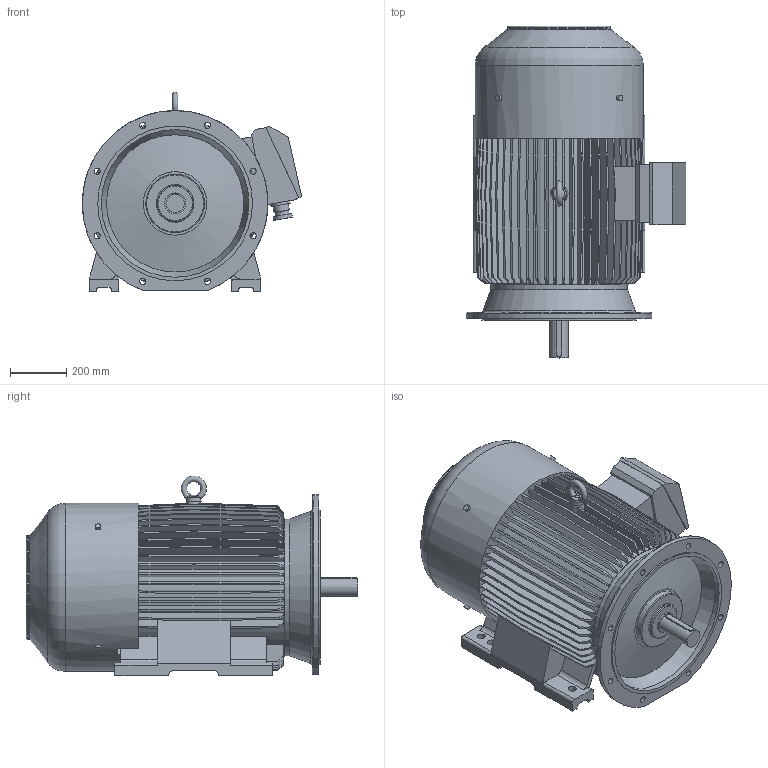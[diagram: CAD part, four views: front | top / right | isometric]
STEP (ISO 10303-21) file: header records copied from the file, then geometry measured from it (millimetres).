
FILE_DESCRIPTION(/* description */ ('Unknown'),/* implementation_level */ '2;1');
FILE_NAME(/* name */ '2SLg 315 S_M2',/* time_stamp */ '2016-09-28T12:40:11+02:00',/* author */ ('Unknown'),/* organization */ ('Unknown'),/* preprocessor_version */ 'ST-DEVELOPER v16',/* originating_system */ 'DEX',/* authorisation */ $);
FILE_SCHEMA (('AUTOMOTIVE_DESIGN {1 0 10303 214 3 1 1}'));
Length unit declared in the file: millimetre
Products named in the file (1): 2SLg 315 S_M2
Bounding box: 780 x 1180 x 710.99 mm (x, y, z)
Volume: 249165207.9 mm3; surface area: 5786324.5 mm2
Topology: 3 solids, 3 shells, 524 faces, 1481 edges, 984 vertices
Faces by surface type: plane 424, cylinder 82, torus 11, cone 7
Full cylindrical faces by diameter (mm): 20 x4, 22 x8, 28 x6, 38.722 x2, 48.628 x2, 55.029 x2, 65 x1, 67.566 x2, 68.767 x2, 75 x1, 127.917 x1, 208.53 x1, 367.437 x1, 486 x1, 490 x1, 525 x1, 550 x1, 598 x1
Entity records: 19954 total; most frequent: CARTESIAN_POINT 6362, ORIENTED_EDGE 2826, DIRECTION 2711, EDGE_CURVE 1413, LINE 1089, VECTOR 1089, VERTEX_POINT 969, AXIS2_PLACEMENT_3D 811
